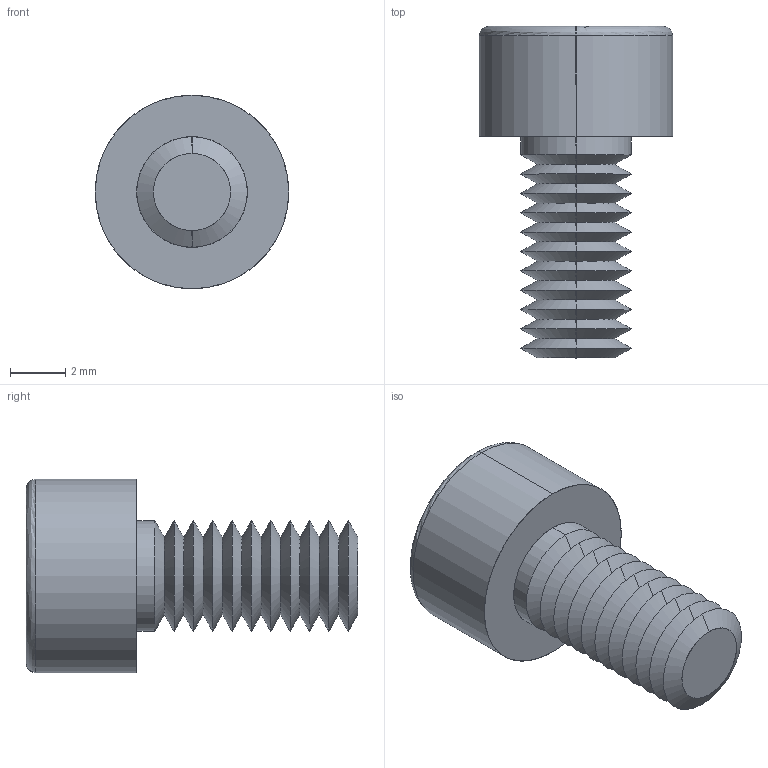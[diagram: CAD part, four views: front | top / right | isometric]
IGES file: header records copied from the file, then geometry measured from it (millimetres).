
Start section: SolidWorks IGES file using analytic representation for surfaces
Global section: file name: C:\Users\ianosborn\Desktop\N0007.91N_v2\N0007.91N_v2_20250519_IGES\91N.040.0080.igs; native system: SolidWorks 2019; preprocessor: SolidWorks 2019; author: IanOsborn; date: 250520.095042; units: millimetre
Bounding box: 7 x 12 x 7 mm (x, y, z)
Surface area: 351.9 mm2 (no closed solid volume)
Topology: 0 solids, 0 shells, 72 faces, 473 edges, 471 vertices
Faces by surface type: revolution 55, bspline 17
